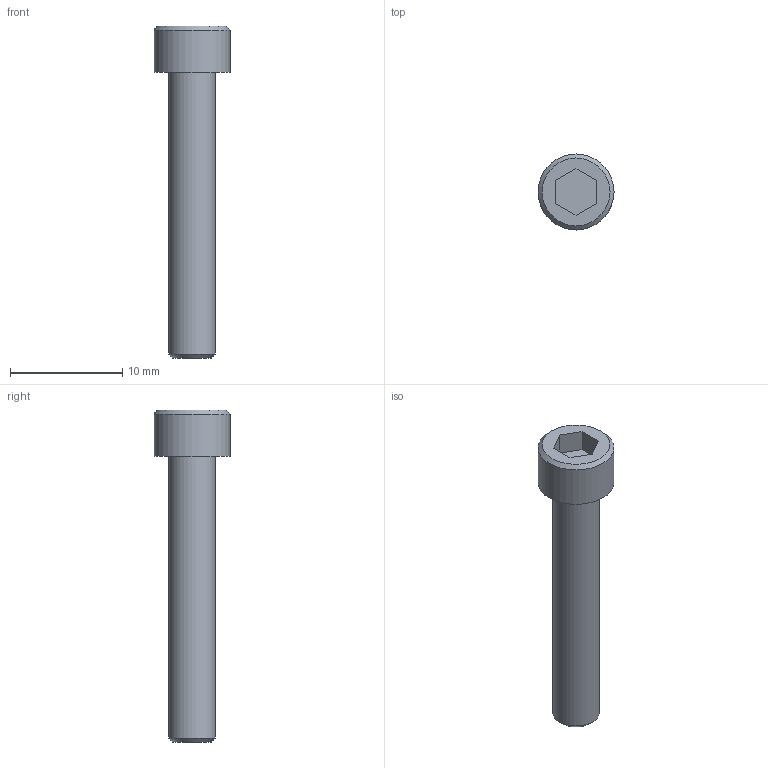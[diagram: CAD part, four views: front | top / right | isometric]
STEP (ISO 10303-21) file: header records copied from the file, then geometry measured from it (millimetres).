
FILE_DESCRIPTION((''),'2;1');
FILE_NAME('C:\Users\Stan\Desktop\import\SHCS 8-32 UNCx1.ipt.step','2011-08-18T17:45:36',(''),(''),'Autodesk Inventor 2012','Autodesk Inventor 2012','');
FILE_SCHEMA(('AUTOMOTIVE_DESIGN { 1 0 10303 214 1 1 1 1 }'));
Length unit declared in the file: inch
Products named in the file (1): SHCS 8-32 UNCx1
Bounding box: 6.76 x 6.76 x 29.51 mm (x, y, z)
Volume: 469.9 mm3; surface area: 508.2 mm2
Topology: 1 solids, 1 shells, 14 faces, 28 edges, 18 vertices
Faces by surface type: plane 10, cone 2, cylinder 2
Full cylindrical faces by diameter (mm): 4.166 x1, 6.756 x1
Entity records: 391 total; most frequent: DIRECTION 60, CARTESIAN_POINT 57, ORIENTED_EDGE 48, EDGE_CURVE 24, AXIS2_PLACEMENT_3D 21, EDGE_LOOP 20, VERTEX_POINT 18, VECTOR 18
